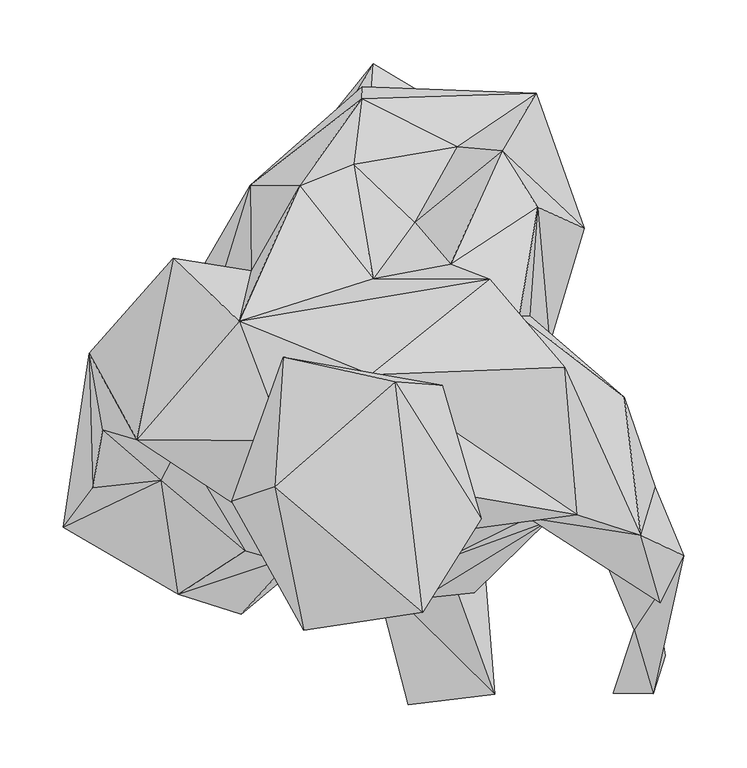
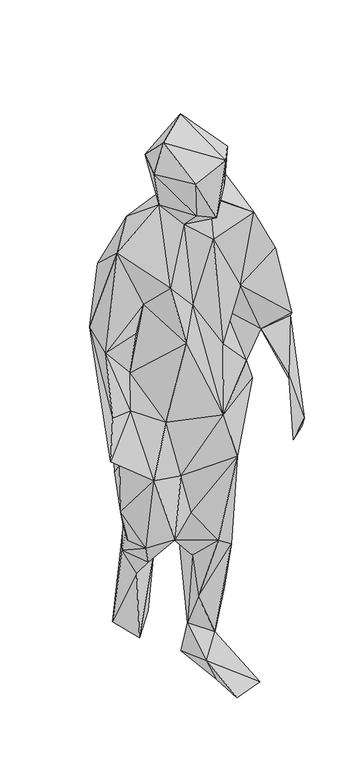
"""IFC4 building model written with IfcOpenShell, lengths in millimetres: geographic element geometry, Enscape AssetDefinition - Adrian 001 Walking : Enscape AssetDefinition - Adrian 001 Walking."""

from ifc_helpers import new_model, si_unit, origin, place, context, project, spatial, triangles, source, transform, mapped, element, save


def geographic_element_4be11703(model_context):
    return source(origin(), model_context, "Body", "Tessellation", [
        triangles([(-188.8010121, -49.6559988, 543.2329754), (-147.2309932, 11.7279996, 454.9399999), (-164.5029858, -39.282, 445.3409855), (-168.6879956, 14.3320001, 616.2150032), (-97.6300055, 93.0709996, 681.5429924), (-30.6380009, 153.675013, 770.1859829), (134.8329945, 105.5499981, 787.5450251), (0.238, 109.4469986, 684.0110104), (-37.8680011, 230.5070057, 781.7040298), (-80.4029956, 202.0830139, 898.2700253), (8.4519999, 280.2250102, 827.1300362), (124.8560054, 262.4610146, 814.9070177), (147.0039903, 192.2389927, 776.6150236), (183.8070037, 168.1359944, 936.9569807), (118.7059992, 229.4119962, 1092.8930294), (83.2009989, 232.7349947, 1002.7470783), (145.6470056, 274.9080019, 913.9580212), (146.9119901, 184.6790072, 1114.9940786), (78.3349987, 139.8429994, 1210.8900421), (17.0310008, 128.279997, 1223.121999), (49.643, 172.9169889, 1070.4130062), (1.394, 218.8279947, 1104.1310062), (-41.2139996, 201.8370079, 1127.5060329), (108.8469989, 127.9450065, 1298.876968), (168.2709971, 58.273001, 1346.1160904), (177.9940046, -57.9689998, 1303.6109814), (228.3550113, -74.1340015, 1191.8109741), (132.3180045, 98.8679932, 1214.7150267), (56.1980005, -74.3959995, 1276.7749741), (70.1619965, -94.521002, 974.9869995), (74.4939949, -95.8430052, 1447.6360565), (30.3940001, -131.8639988, 1383.5260162), (15.1049998, 52.6209977, 1381.8849827), (65.9930013, -38.632998, 1374.6710335), (71.4969985, 44.2910011, 1485.321983), (34.1530003, 46.9430013, 1581.2321171), (55.8989999, -135.253999, 1546.6259445), (102.3029943, -61.3980011, 1526.45392), (-9.7120003, -44.4599997, 1326.1530647), (-61.0230012, -35.8810016, 1579.235146), (-54.2749983, 66.2039986, 1481.0209373), (-88.8309968, 94.8359991, 1292.0249153), (-141.2329945, 144.3999978, 1142.5210321), (-79.4879988, 134.5820015, 1110.787068), (-207.4919861, 69.510996, 1023.3340485), (-154.9369999, 110.665002, 1027.6470119), (-112.7759924, 96.7890049, 982.418014), (7.8600001, 270.4820003, 971.8570307), (-166.7280135, 41.7880016, 841.2219812), (-115.8780014, 141.1660018, 863.3669958), (-227.9050025, -67.7999995, 715.5960011), (-175.8809977, -20.862001, 659.9209837), (-204.5370066, -36.6120003, 816.5569897), (-196.9260067, 9.1289997, 977.6199783), (-84.0520007, -86.3149985, 793.1810183), (-150.4569954, -30.7480005, 816.9529684), (-136.9879956, -120.7719978, 660.5520498), (-44.4790029, -89.934, 623.7720274), (-135.1499991, -1.635, 905.2270134), (-34.9389988, -100.7020019, 1018.0610418), (-121.3019981, -5.5010002, 1017.4750311), (-96.9569997, -1.3190001, 1094.7810682), (55.6639988, -123.9050006, 789.1889654), (0.652, -70.708997, 1098.4779356), (-52.9799965, 0.255, 1370.9879734), (-169.737005, 1.1390001, 1268.3010727), (-61.8720001, -69.9049991, 1171.09298), (-94.6460034, -47.5349982, 1504.9920033), (-21.9659989, -126.5940079, 1404.8420116), (-38.125003, -149.5320065, 1517.9880123), (125.6369988, -13.0799997, 1005.480051), (139.3100014, -60.6519983, 1103.0429913), (156.3290116, 77.3679974, 920.4420004), (153.6539932, -63.9709999, 879.8199886), (193.3099847, -24.9320015, 789.6450422), (96.7360012, -119.7730035, 649.0459934), (159.9140036, 1.054, 996.203001), (239.6850065, -36.5369981, 965.0920366), (140.7410096, 99.0569987, 1059.8349455), (215.3679952, 34.5810015, 1100.2300089), (243.8229989, -127.6309904, 1025.8519907), (262.0599853, -90.4199987, 989.898008), (240.4180105, -124.1560027, 826.0210196), (190.4709865, -70.6679976, 962.7979906), (237.961002, -199.3920081, 761.1459824), (223.1200111, -149.0069931, 863.4919882), (206.4379988, -199.1129917, 708.1529961), (247.6419881, -169.4509941, 715.1200127), (148.3930044, 33.7079988, 657.5560118), (91.532994, 29.5989995, 577.2049933), (182.7040006, -16.473999, 713.1720211), (135.7940005, -34.8379989, 529.0160016), (67.4170014, 28.8080004, 450.7679798), (17.1649997, 18.926, 587.8450416), (-22.7390008, -53.6929981, 515.7939889), (42.0030003, 23.2289986, 188.163006), (112.1489958, 15.7130012, 307.0040079), (114.4150002, -26.5510002, 202.1019989), (15.3559997, -18.3669998, 125.8679894), (0.542, 2.0959999, 398.4709903), (64.7159944, -66.9559967, 111.798999), (80.2759958, 6.8569999, 117.4319945), (26.0959998, 32.0210015, 8.5000007), (96.5549985, 0.462, 12.4430007), (48.2450021, -111.9930006, 414.0640065), (23.1559994, -58.6180018, 225.6470007), (107.0249989, -72.7579953, 359.7760048), (-0.927, -64.4849992, 485.3970071), (14.1040003, -44.5599981, 340.6429793), (-11.4080008, 1.073, 367.8829954), (-87.2090028, -136.4740008, 477.5289917), (-150.9220016, -106.9089995, 457.3050081), (-76.3449948, 12.7629996, 317.4300067), (-83.7809962, 125.7490105, 286.3539966), (-82.4809938, 174.5760083, 45.3110015), (-42.243002, 114.4800035, 20.5439995), (-30.5560019, 148.2750065, 187.3449964), (-41.7310011, 198.275997, 230.2820013), (8.0279995, 173.3759907, 285.4989979), (-70.4339957, 126.7500031, 354.3289899), (21.094, 156.0840048, 222.4679978), (-92.5639993, -9.5520003, 518.9819847), (61.1319971, 271.9019899, 194.1819882), (17.1160008, 298.4349997, 199.9440093), (6.867, 157.8929968, 57.0400004), (17.9750009, -106.2719926, 65.2579944), (46.716003, -103.6900008, 0.221), (113.1239998, -199.8719934, 27.4010005), (44.5890025, -207.9790021, 9.107)], [[103, 104, 127], [127, 104, 129], [104, 128, 129], [101, 128, 104], [128, 126, 129], [101, 126, 128], [127, 126, 103], [126, 127, 129], [103, 126, 99], [126, 101, 99], [95, 100, 122], [123, 121, 125], [121, 116, 125], [123, 125, 115], [125, 116, 115], [124, 123, 115], [123, 124, 119], [119, 100, 121], [119, 122, 100], [123, 119, 121], [119, 120, 122], [2, 122, 120], [120, 119, 118], [118, 119, 124], [118, 124, 115], [121, 117, 116], [118, 115, 117], [115, 116, 117], [114, 120, 118], [118, 117, 114], [114, 2, 120], [2, 112, 3], [114, 112, 2], [114, 117, 113], [117, 121, 113], [114, 113, 112], [113, 111, 112], [76, 58, 108], [58, 111, 108], [121, 100, 110], [111, 110, 108], [110, 111, 113], [113, 121, 110], [100, 99, 109], [100, 109, 110], [99, 106, 109], [106, 99, 101], [108, 105, 76], [105, 109, 106], [108, 110, 105], [109, 105, 110], [76, 105, 107], [107, 106, 101], [105, 106, 107], [107, 101, 98], [102, 104, 103], [99, 102, 103], [104, 102, 101], [98, 101, 102], [96, 99, 100], [96, 102, 99], [102, 97, 98], [96, 97, 102], [97, 107, 98], [93, 97, 96], [93, 96, 100], [122, 94, 95], [94, 93, 100], [94, 100, 95], [90, 93, 94], [92, 97, 93], [97, 92, 107], [93, 90, 92], [92, 76, 107], [91, 76, 92], [89, 90, 94], [92, 89, 91], [90, 89, 92], [89, 7, 91], [85, 87, 88], [88, 83, 85], [83, 88, 87], [83, 87, 86], [87, 85, 86], [81, 72, 84], [83, 86, 84], [82, 84, 86], [83, 82, 85], [81, 84, 82], [86, 85, 82], [27, 81, 82], [27, 72, 81], [78, 27, 82], [83, 78, 82], [83, 84, 78], [28, 27, 80], [80, 27, 78], [28, 80, 79], [77, 80, 78], [79, 80, 77], [77, 78, 84], [79, 77, 73], [7, 73, 75], [7, 75, 91], [75, 76, 91], [75, 63, 76], [63, 58, 76], [77, 84, 74], [74, 63, 75], [73, 77, 74], [73, 74, 75], [71, 74, 84], [71, 84, 72], [71, 72, 30], [30, 63, 74], [71, 30, 74], [68, 70, 40], [68, 69, 70], [68, 65, 69], [65, 39, 69], [65, 67, 39], [66, 62, 67], [65, 66, 67], [64, 63, 30], [39, 67, 64], [63, 64, 60], [67, 62, 60], [64, 67, 60], [59, 60, 62], [61, 59, 62], [63, 60, 55], [59, 55, 60], [55, 58, 63], [55, 57, 58], [57, 111, 58], [57, 112, 111], [59, 56, 55], [55, 56, 57], [66, 54, 62], [59, 54, 56], [61, 54, 59], [54, 61, 62], [54, 53, 56], [51, 52, 57], [53, 51, 56], [56, 51, 57], [45, 54, 66], [45, 51, 53], [45, 53, 54], [50, 52, 49], [49, 52, 51], [49, 51, 45], [48, 10, 23], [47, 50, 49], [47, 49, 45], [50, 47, 10], [46, 47, 45], [43, 45, 66], [46, 45, 43], [43, 44, 46], [44, 10, 47], [10, 44, 23], [44, 47, 46], [42, 43, 66], [42, 66, 65], [44, 42, 23], [42, 44, 43], [42, 65, 33], [41, 65, 68], [40, 41, 68], [41, 33, 65], [40, 36, 41], [36, 37, 38], [36, 40, 37], [40, 70, 37], [32, 37, 70], [32, 69, 39], [69, 32, 70], [38, 37, 31], [31, 37, 32], [36, 35, 41], [41, 35, 33], [35, 38, 31], [36, 38, 35], [33, 35, 34], [34, 31, 32], [39, 34, 32], [35, 31, 34], [30, 29, 64], [34, 39, 29], [29, 39, 64], [29, 30, 72], [27, 26, 72], [33, 34, 26], [34, 29, 26], [26, 29, 72], [28, 25, 27], [25, 26, 27], [25, 33, 26], [24, 25, 28], [33, 25, 24], [42, 33, 24], [20, 42, 24], [20, 23, 42], [23, 22, 48], [20, 22, 23], [22, 16, 48], [16, 22, 21], [20, 21, 22], [24, 28, 19], [20, 24, 19], [20, 19, 21], [79, 18, 28], [18, 19, 28], [79, 73, 18], [15, 16, 21], [19, 15, 21], [18, 15, 19], [16, 17, 48], [15, 17, 16], [15, 18, 14], [14, 18, 73], [14, 73, 7], [15, 14, 17], [14, 7, 13], [12, 14, 13], [12, 17, 14], [11, 17, 12], [48, 17, 11], [48, 11, 10], [12, 13, 9], [12, 9, 11], [9, 13, 7], [10, 11, 9], [9, 50, 10], [9, 7, 6], [9, 6, 50], [7, 89, 8], [6, 7, 8], [8, 94, 122], [8, 89, 94], [50, 6, 5], [8, 5, 6], [5, 8, 122], [5, 4, 50], [5, 122, 4], [4, 52, 50], [4, 122, 1], [57, 1, 112], [1, 2, 3], [1, 3, 112], [1, 57, 52], [122, 2, 1], [1, 52, 4]]),
    ])


if __name__ == "__main__":
    model = new_model("IFC4")
    model_context = context("Model", 3, world=origin())
    ifc_project = project(units=[si_unit("LENGTHUNIT", "METRE", prefix="MILLI")], contexts=[model_context])
    site = spatial("IfcSite", under=ifc_project)
    building = spatial("IfcBuilding", under=site)
    placement = place(None, origin())
    geographic_element_shape = geographic_element_4be11703(model_context)
    element("IfcGeographicElement", 1, ObjectType="Enscape AssetDefinition - Adrian 001 Walking : Enscape AssetDefinition - Adrian 001 Walking", at=placement, inside=building, context=model_context, shape_type="MappedRepresentation", body=[
        mapped(geographic_element_shape, transform((0.0, 0.0, 0.0), x_axis=(1.0, 0.0, 0.0), y_axis=(0.0, 1.0, 0.0), z_axis=(0.0, 0.0, 1.0))),
    ])
    save(model, "model.ifc")
